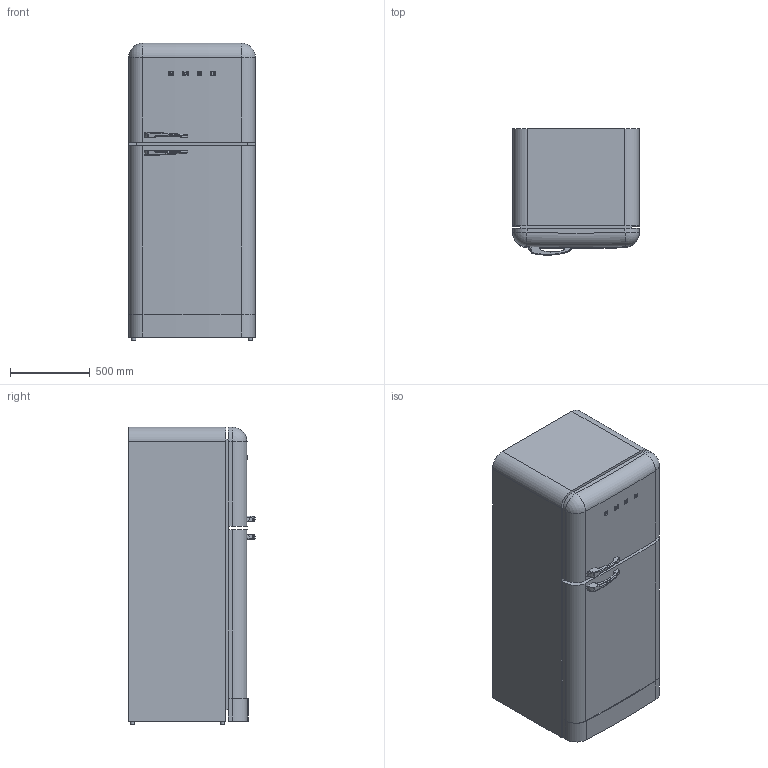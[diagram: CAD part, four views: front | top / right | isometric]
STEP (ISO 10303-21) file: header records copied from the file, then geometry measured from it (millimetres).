
FILE_DESCRIPTION(/* description */ (''),/* implementation_level */ '2;1');
FILE_NAME(/* name */ 'fabR.stp',/* time_stamp */ '2018-03-14T17:02:08+01:00',/* author */ (''),/* organization */ (''),/* preprocessor_version */ 'ST-DEVELOPER v16',/* originating_system */ 'SIEMENS PLM Software NX 11.0',/* authorisation */ '');
FILE_SCHEMA (('AUTOMOTIVE_DESIGN { 1 0 10303 214 3 1 1 1 }'));
Length unit declared in the file: millimetre
Products named in the file (1): gobb1F2C9566klun
Bounding box: 796 x 793.15 x 1872 mm (x, y, z)
Volume: 1079670019.7 mm3; surface area: 12344650.1 mm2
Topology: 11 solids, 11 shells, 379 faces, 897 edges, 551 vertices
Faces by surface type: plane 127, cylinder 125, torus 57, bspline 45, cone 23, sphere 2
Full cylindrical faces by diameter (mm): 2 x40, 25 x4
Entity records: 12589 total; most frequent: CARTESIAN_POINT 4303, DIRECTION 1687, ORIENTED_EDGE 1622, EDGE_CURVE 811, AXIS2_PLACEMENT_3D 667, VERTEX_POINT 551, EDGE_LOOP 476, ADVANCED_FACE 379
